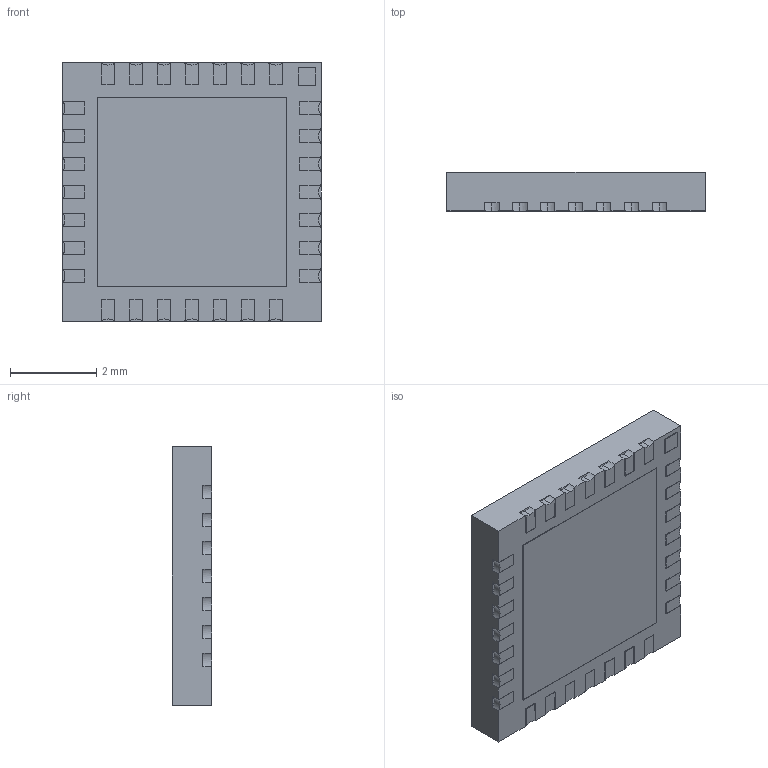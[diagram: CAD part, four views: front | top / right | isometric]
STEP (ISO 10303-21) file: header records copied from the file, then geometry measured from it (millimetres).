
FILE_DESCRIPTION (( 'STEP AP214' ), '1' );
FILE_NAME ('IC-QFN28-AM256Q.STEP', '2011-05-30T13:55:23', ( '' ), ( '' ), 'SwSTEP 2.0', 'SolidWorks 2010', '' );
FILE_SCHEMA (( 'AUTOMOTIVE_DESIGN' ));
Length unit declared in the file: millimetre
Products named in the file (1): IC-QFN28-AM256Q
Bounding box: 6 x 0.91 x 6 mm (x, y, z)
Volume: 30.3 mm3; surface area: 115.4 mm2
Topology: 1 solids, 2 shells, 200 faces, 579 edges, 386 vertices
Faces by surface type: plane 163, cylinder 37
Entity records: 7056 total; most frequent: CARTESIAN_POINT 1166, ORIENTED_EDGE 1158, DIRECTION 1111, EDGE_CURVE 579, LINE 449, VECTOR 449, VERTEX_POINT 386, AXIS2_PLACEMENT_3D 331
